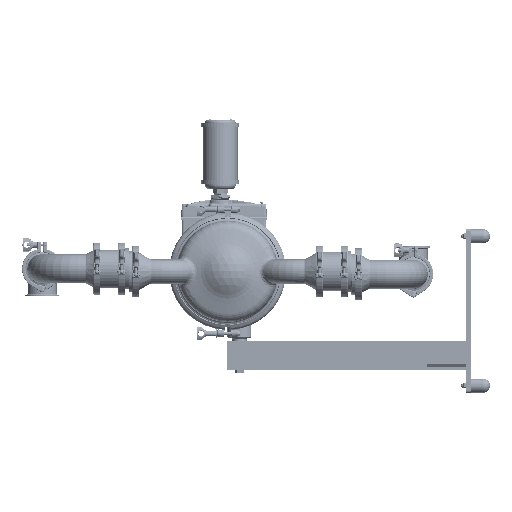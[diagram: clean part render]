
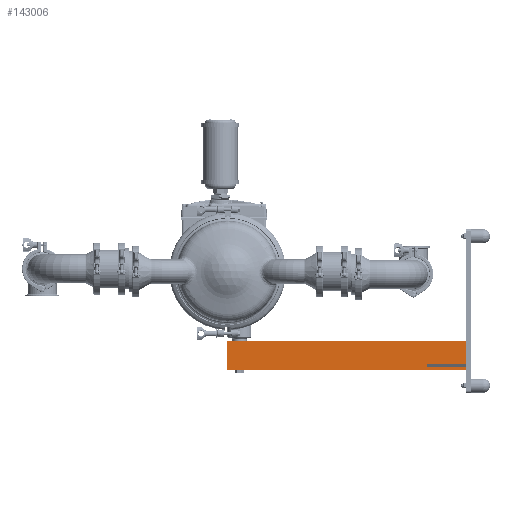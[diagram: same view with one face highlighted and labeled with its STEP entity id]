
A CAD part, left-side view. The second image highlights one B-rep face of the part: STEP entity #143006.
In plain terms, the highlighted planar face has unit normal (-1, 0, 0).
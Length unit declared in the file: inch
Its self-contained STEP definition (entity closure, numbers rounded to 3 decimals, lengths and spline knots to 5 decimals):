
#4008 = LINE ( 'NONE', #798638, #623944 ) ;
#67280 = VECTOR ( 'NONE', #686471, 39.37008 ) ;
#70053 = VERTEX_POINT ( 'NONE', #285273 ) ;
#88304 = VERTEX_POINT ( 'NONE', #729447 ) ;
#92736 = DIRECTION ( 'NONE',  ( -1., 0., 0. ) ) ;
#109698 = LINE ( 'NONE', #356903, #451805 ) ;
#111888 = EDGE_CURVE ( 'NONE', #88304, #362324, #189578, .T. ) ;
#119596 = AXIS2_PLACEMENT_3D ( 'NONE', #149592, #92736, #295081 ) ;
#135003 = LINE ( 'NONE', #564762, #67280 ) ;
#142783 = EDGE_LOOP ( 'NONE', ( #407377, #736141, #338110, #709764, #185239, #278222, #226195, #460367 ) ) ;
#143006 = ADVANCED_FACE ( 'NONE', ( #708988 ), #153551, .T. ) ;
#149592 = CARTESIAN_POINT ( 'NONE',  ( -1., -0.157, -7.23633 ) ) ;
#153551 = PLANE ( 'NONE',  #119596 ) ;
#185239 = ORIENTED_EDGE ( 'NONE', *, *, #579520, .F. ) ;
#189578 = LINE ( 'NONE', #234360, #566856 ) ;
#219946 = LINE ( 'NONE', #714565, #467727 ) ;
#226195 = ORIENTED_EDGE ( 'NONE', *, *, #743314, .F. ) ;
#229226 = VERTEX_POINT ( 'NONE', #762848 ) ;
#234360 = CARTESIAN_POINT ( 'NONE',  ( -1., -24.72, -9.62633 ) ) ;
#242361 = DIRECTION ( 'NONE',  ( 0., 1., 0. ) ) ;
#250338 = EDGE_CURVE ( 'NONE', #362324, #70053, #459523, .T. ) ;
#278222 = ORIENTED_EDGE ( 'NONE', *, *, #314883, .T. ) ;
#285273 = CARTESIAN_POINT ( 'NONE',  ( -1., -20.72, -9.87633 ) ) ;
#295081 = DIRECTION ( 'NONE',  ( 0., 0., 1. ) ) ;
#314686 = VERTEX_POINT ( 'NONE', #478530 ) ;
#314883 = EDGE_CURVE ( 'NONE', #701433, #396259, #4008, .T. ) ;
#315662 = VECTOR ( 'NONE', #398671, 39.37008 ) ;
#326371 = CARTESIAN_POINT ( 'NONE',  ( -1., 0.093, -7.23633 ) ) ;
#338110 = ORIENTED_EDGE ( 'NONE', *, *, #250338, .F. ) ;
#356903 = CARTESIAN_POINT ( 'NONE',  ( -1., -24.72, -7.23633 ) ) ;
#359783 = VECTOR ( 'NONE', #466783, 39.37008 ) ;
#362324 = VERTEX_POINT ( 'NONE', #639024 ) ;
#396259 = VERTEX_POINT ( 'NONE', #326371 ) ;
#398671 = DIRECTION ( 'NONE',  ( 0., 0., -1. ) ) ;
#407377 = ORIENTED_EDGE ( 'NONE', *, *, #564230, .F. ) ;
#426622 = VERTEX_POINT ( 'NONE', #473810 ) ;
#451805 = VECTOR ( 'NONE', #596246, 39.37008 ) ;
#459523 = LINE ( 'NONE', #585167, #315662 ) ;
#460367 = ORIENTED_EDGE ( 'NONE', *, *, #509349, .F. ) ;
#462811 = LINE ( 'NONE', #535612, #359783 ) ;
#466783 = DIRECTION ( 'NONE',  ( 0., 0., 1. ) ) ;
#467727 = VECTOR ( 'NONE', #767412, 39.37008 ) ;
#473810 = CARTESIAN_POINT ( 'NONE',  ( -1., 0.093, -10.23633 ) ) ;
#478530 = CARTESIAN_POINT ( 'NONE',  ( -1., -24.72, -9.87633 ) ) ;
#489146 = CARTESIAN_POINT ( 'NONE',  ( -1., -24.72, -7.23633 ) ) ;
#509349 = EDGE_CURVE ( 'NONE', #229226, #426622, #219946, .T. ) ;
#535612 = CARTESIAN_POINT ( 'NONE',  ( -1., 0.093, -10.23633 ) ) ;
#536346 = LINE ( 'NONE', #662063, #669305 ) ;
#549320 = EDGE_CURVE ( 'NONE', #314686, #70053, #536346, .T. ) ;
#564230 = EDGE_CURVE ( 'NONE', #314686, #229226, #135003, .T. ) ;
#564762 = CARTESIAN_POINT ( 'NONE',  ( -1., -24.72, -9.87633 ) ) ;
#566856 = VECTOR ( 'NONE', #242361, 39.37008 ) ;
#579520 = EDGE_CURVE ( 'NONE', #701433, #88304, #109698, .T. ) ;
#585167 = CARTESIAN_POINT ( 'NONE',  ( -1., -20.72, -9.62633 ) ) ;
#596246 = DIRECTION ( 'NONE',  ( 0., 0., -1. ) ) ;
#597167 = DIRECTION ( 'NONE',  ( 0., 1., 0. ) ) ;
#623944 = VECTOR ( 'NONE', #673067, 39.37008 ) ;
#639024 = CARTESIAN_POINT ( 'NONE',  ( -1., -20.72, -9.62633 ) ) ;
#662063 = CARTESIAN_POINT ( 'NONE',  ( -1., -24.72, -9.87633 ) ) ;
#669305 = VECTOR ( 'NONE', #597167, 39.37008 ) ;
#673067 = DIRECTION ( 'NONE',  ( 0., 1., 0. ) ) ;
#686471 = DIRECTION ( 'NONE',  ( 0., 0., -1. ) ) ;
#701433 = VERTEX_POINT ( 'NONE', #489146 ) ;
#708988 = FACE_OUTER_BOUND ( 'NONE', #142783, .T. ) ;
#709764 = ORIENTED_EDGE ( 'NONE', *, *, #111888, .F. ) ;
#714565 = CARTESIAN_POINT ( 'NONE',  ( -1., -24.72, -10.23633 ) ) ;
#729447 = CARTESIAN_POINT ( 'NONE',  ( -1., -24.72, -9.62633 ) ) ;
#736141 = ORIENTED_EDGE ( 'NONE', *, *, #549320, .T. ) ;
#743314 = EDGE_CURVE ( 'NONE', #426622, #396259, #462811, .T. ) ;
#762848 = CARTESIAN_POINT ( 'NONE',  ( -1., -24.72, -10.23633 ) ) ;
#767412 = DIRECTION ( 'NONE',  ( 0., 1., 0. ) ) ;
#798638 = CARTESIAN_POINT ( 'NONE',  ( -1., -24.72, -7.23633 ) ) ;
